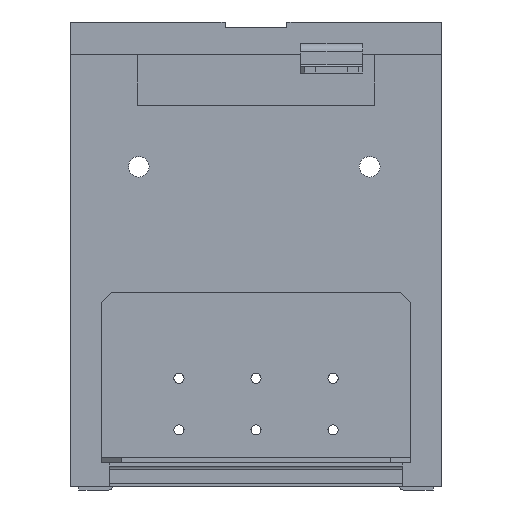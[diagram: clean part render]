
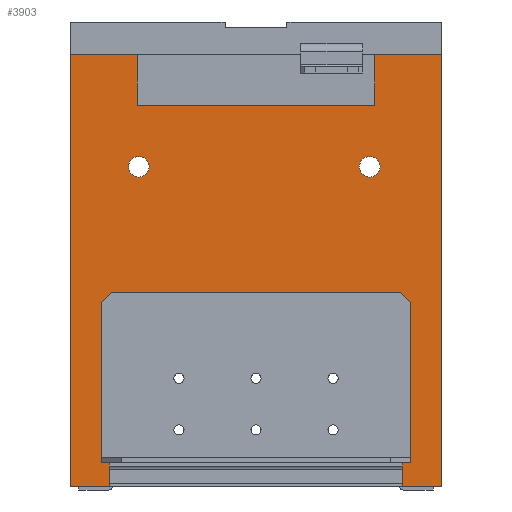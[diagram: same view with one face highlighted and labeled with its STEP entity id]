
A CAD part, left-side view. The second image highlights one B-rep face of the part: STEP entity #3903.
In plain terms, the highlighted planar face has unit normal (-1, 0, 0).
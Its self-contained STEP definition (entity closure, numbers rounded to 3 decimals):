
#1263=AXIS2_PLACEMENT_3D('Circle Axis2P3D',#1261,#1262,$) ;
#1289=AXIS2_PLACEMENT_3D('Circle Axis2P3D',#1287,#1288,$) ;
#1320=AXIS2_PLACEMENT_3D('Circle Axis2P3D',#1318,#1319,$) ;
#1346=AXIS2_PLACEMENT_3D('Circle Axis2P3D',#1344,#1345,$) ;
#3849=AXIS2_PLACEMENT_3D('Plane Axis2P3D',#3846,#3847,#3848) ;
#341=CARTESIAN_POINT('Vertex',(-409.35,-90.,209.18)) ;
#344=CARTESIAN_POINT('Line Origine',(-409.35,-90.,104.59)) ;
#348=CARTESIAN_POINT('Vertex',(-409.35,-90.,0.)) ;
#650=CARTESIAN_POINT('Vertex',(-409.35,71.,0.)) ;
#653=CARTESIAN_POINT('Line Origine',(-409.35,80.5,0.)) ;
#657=CARTESIAN_POINT('Vertex',(-409.35,90.,0.)) ;
#763=CARTESIAN_POINT('Vertex',(-409.35,71.,1.5)) ;
#766=CARTESIAN_POINT('Line Origine',(-409.35,71.,0.75)) ;
#907=CARTESIAN_POINT('Line Origine',(-409.35,0.,1.5)) ;
#911=CARTESIAN_POINT('Vertex',(-409.35,-71.,1.5)) ;
#949=CARTESIAN_POINT('Vertex',(-409.35,-71.,0.)) ;
#952=CARTESIAN_POINT('Line Origine',(-409.35,-71.,0.75)) ;
#982=CARTESIAN_POINT('Vertex',(-409.35,57.4,209.18)) ;
#985=CARTESIAN_POINT('Line Origine',(-409.35,57.4,196.93)) ;
#989=CARTESIAN_POINT('Vertex',(-409.35,57.4,184.68)) ;
#1040=CARTESIAN_POINT('Line Origine',(-409.35,0.,184.68)) ;
#1044=CARTESIAN_POINT('Vertex',(-409.35,-57.4,184.68)) ;
#1258=CARTESIAN_POINT('Vertex',(-409.35,56.759,159.9)) ;
#1261=CARTESIAN_POINT('Axis2P3D Location',(-409.35,56.759,154.9)) ;
#1265=CARTESIAN_POINT('Vertex',(-409.35,56.759,149.9)) ;
#1287=CARTESIAN_POINT('Axis2P3D Location',(-409.35,56.759,154.9)) ;
#1315=CARTESIAN_POINT('Vertex',(-409.35,-55.059,159.9)) ;
#1318=CARTESIAN_POINT('Axis2P3D Location',(-409.35,-55.059,154.9)) ;
#1322=CARTESIAN_POINT('Vertex',(-409.35,-55.059,149.9)) ;
#1344=CARTESIAN_POINT('Axis2P3D Location',(-409.35,-55.059,154.9)) ;
#1722=CARTESIAN_POINT('Vertex',(-409.35,75.,11.6)) ;
#1725=CARTESIAN_POINT('Line Origine',(-409.35,0.,11.6)) ;
#1729=CARTESIAN_POINT('Vertex',(-409.35,-75.,11.6)) ;
#1898=CARTESIAN_POINT('Vertex',(-409.35,-75.,89.1)) ;
#1922=CARTESIAN_POINT('Line Origine',(-409.35,-75.,50.35)) ;
#3050=CARTESIAN_POINT('Vertex',(-409.35,-70.,94.1)) ;
#3053=CARTESIAN_POINT('Line Origine',(-409.35,0.,94.1)) ;
#3057=CARTESIAN_POINT('Vertex',(-409.35,70.,94.1)) ;
#3077=CARTESIAN_POINT('Line Origine',(-409.35,-72.5,91.6)) ;
#3089=CARTESIAN_POINT('Line Origine',(-409.35,75.,50.35)) ;
#3093=CARTESIAN_POINT('Vertex',(-409.35,75.,89.1)) ;
#3115=CARTESIAN_POINT('Line Origine',(-409.35,72.5,91.6)) ;
#3597=CARTESIAN_POINT('Line Origine',(-409.35,-57.4,196.93)) ;
#3601=CARTESIAN_POINT('Vertex',(-409.35,-57.4,209.18)) ;
#3846=CARTESIAN_POINT('Axis2P3D Location',(-409.35,0.,209.18)) ;
#3851=CARTESIAN_POINT('Line Origine',(-409.35,73.7,209.18)) ;
#3855=CARTESIAN_POINT('Vertex',(-409.35,90.,209.18)) ;
#3858=CARTESIAN_POINT('Line Origine',(-409.35,90.,104.59)) ;
#3863=CARTESIAN_POINT('Line Origine',(-409.35,-80.5,0.)) ;
#3868=CARTESIAN_POINT('Line Origine',(-409.35,-73.7,209.18)) ;
#345=DIRECTION('Vector Direction',(0.,0.,-1.)) ;
#654=DIRECTION('Vector Direction',(0.,1.,0.)) ;
#767=DIRECTION('Vector Direction',(0.,0.,1.)) ;
#908=DIRECTION('Vector Direction',(0.,1.,0.)) ;
#953=DIRECTION('Vector Direction',(0.,0.,1.)) ;
#986=DIRECTION('Vector Direction',(0.,0.,-1.)) ;
#1041=DIRECTION('Vector Direction',(0.,1.,0.)) ;
#1262=DIRECTION('Axis2P3D Direction',(-1.,0.,0.)) ;
#1288=DIRECTION('Axis2P3D Direction',(-1.,0.,0.)) ;
#1319=DIRECTION('Axis2P3D Direction',(-1.,0.,0.)) ;
#1345=DIRECTION('Axis2P3D Direction',(-1.,0.,0.)) ;
#1726=DIRECTION('Vector Direction',(0.,1.,0.)) ;
#1923=DIRECTION('Vector Direction',(0.,0.,-1.)) ;
#3054=DIRECTION('Vector Direction',(0.,1.,0.)) ;
#3078=DIRECTION('Vector Direction',(0.,-0.707,-0.707)) ;
#3090=DIRECTION('Vector Direction',(0.,0.,-1.)) ;
#3116=DIRECTION('Vector Direction',(0.,0.707,-0.707)) ;
#3598=DIRECTION('Vector Direction',(0.,0.,1.)) ;
#3847=DIRECTION('Axis2P3D Direction',(1.,-0.,0.)) ;
#3848=DIRECTION('Axis2P3D XDirection',(0.,0.,-1.)) ;
#3852=DIRECTION('Vector Direction',(0.,1.,0.)) ;
#3859=DIRECTION('Vector Direction',(0.,0.,-1.)) ;
#3864=DIRECTION('Vector Direction',(0.,1.,0.)) ;
#3869=DIRECTION('Vector Direction',(0.,1.,0.)) ;
#346=VECTOR('Line Direction',#345,1.) ;
#655=VECTOR('Line Direction',#654,1.) ;
#768=VECTOR('Line Direction',#767,1.) ;
#909=VECTOR('Line Direction',#908,1.) ;
#954=VECTOR('Line Direction',#953,1.) ;
#987=VECTOR('Line Direction',#986,1.) ;
#1042=VECTOR('Line Direction',#1041,1.) ;
#1727=VECTOR('Line Direction',#1726,1.) ;
#1924=VECTOR('Line Direction',#1923,1.) ;
#3055=VECTOR('Line Direction',#3054,1.) ;
#3079=VECTOR('Line Direction',#3078,1.) ;
#3091=VECTOR('Line Direction',#3090,1.) ;
#3117=VECTOR('Line Direction',#3116,1.) ;
#3599=VECTOR('Line Direction',#3598,1.) ;
#3853=VECTOR('Line Direction',#3852,1.) ;
#3860=VECTOR('Line Direction',#3859,1.) ;
#3865=VECTOR('Line Direction',#3864,1.) ;
#3870=VECTOR('Line Direction',#3869,1.) ;
#3874=ORIENTED_EDGE('',*,*,#3603,.T.) ;
#3875=ORIENTED_EDGE('',*,*,#1046,.T.) ;
#3876=ORIENTED_EDGE('',*,*,#991,.T.) ;
#3877=ORIENTED_EDGE('',*,*,#3857,.T.) ;
#3878=ORIENTED_EDGE('',*,*,#3862,.F.) ;
#3879=ORIENTED_EDGE('',*,*,#659,.F.) ;
#3880=ORIENTED_EDGE('',*,*,#770,.T.) ;
#3881=ORIENTED_EDGE('',*,*,#913,.F.) ;
#3882=ORIENTED_EDGE('',*,*,#956,.F.) ;
#3883=ORIENTED_EDGE('',*,*,#3867,.F.) ;
#3884=ORIENTED_EDGE('',*,*,#350,.T.) ;
#3885=ORIENTED_EDGE('',*,*,#3872,.T.) ;
#3888=ORIENTED_EDGE('',*,*,#3059,.F.) ;
#3889=ORIENTED_EDGE('',*,*,#3081,.F.) ;
#3890=ORIENTED_EDGE('',*,*,#1926,.T.) ;
#3891=ORIENTED_EDGE('',*,*,#1731,.T.) ;
#3892=ORIENTED_EDGE('',*,*,#3095,.F.) ;
#3893=ORIENTED_EDGE('',*,*,#3119,.F.) ;
#3896=ORIENTED_EDGE('',*,*,#1291,.T.) ;
#3897=ORIENTED_EDGE('',*,*,#1267,.T.) ;
#3900=ORIENTED_EDGE('',*,*,#1348,.T.) ;
#3901=ORIENTED_EDGE('',*,*,#1324,.T.) ;
#3894=FACE_BOUND('',#3887,.T.) ;
#3898=FACE_BOUND('',#3895,.T.) ;
#3902=FACE_BOUND('',#3899,.T.) ;
#3903=ADVANCED_FACE('\X2\6A217EC4\X0\',(#3886,#3894,#3898,#3902),#3850,.F.) ;
#1264=CIRCLE('generated circle',#1263,5.) ;
#1290=CIRCLE('generated circle',#1289,5.) ;
#1321=CIRCLE('generated circle',#1320,5.) ;
#1347=CIRCLE('generated circle',#1346,5.) ;
#350=EDGE_CURVE('',#349,#342,#347,.F.) ;
#659=EDGE_CURVE('',#651,#658,#656,.T.) ;
#770=EDGE_CURVE('',#651,#764,#769,.T.) ;
#913=EDGE_CURVE('',#912,#764,#910,.T.) ;
#956=EDGE_CURVE('',#950,#912,#955,.T.) ;
#991=EDGE_CURVE('',#990,#983,#988,.F.) ;
#1046=EDGE_CURVE('',#1045,#990,#1043,.T.) ;
#1267=EDGE_CURVE('',#1266,#1259,#1264,.F.) ;
#1291=EDGE_CURVE('',#1259,#1266,#1290,.F.) ;
#1324=EDGE_CURVE('',#1323,#1316,#1321,.F.) ;
#1348=EDGE_CURVE('',#1316,#1323,#1347,.F.) ;
#1731=EDGE_CURVE('',#1730,#1723,#1728,.T.) ;
#1926=EDGE_CURVE('',#1899,#1730,#1925,.T.) ;
#3059=EDGE_CURVE('',#3051,#3058,#3056,.T.) ;
#3081=EDGE_CURVE('',#1899,#3051,#3080,.F.) ;
#3095=EDGE_CURVE('',#3094,#1723,#3092,.T.) ;
#3119=EDGE_CURVE('',#3058,#3094,#3118,.T.) ;
#3603=EDGE_CURVE('',#3602,#1045,#3600,.F.) ;
#3857=EDGE_CURVE('',#983,#3856,#3854,.T.) ;
#3862=EDGE_CURVE('',#658,#3856,#3861,.F.) ;
#3867=EDGE_CURVE('',#349,#950,#3866,.T.) ;
#3872=EDGE_CURVE('',#342,#3602,#3871,.T.) ;
#3873=EDGE_LOOP('',(#3874,#3875,#3876,#3877,#3878,#3879,#3880,#3881,#3882,#3883,#3884,#3885)) ;
#3887=EDGE_LOOP('',(#3888,#3889,#3890,#3891,#3892,#3893)) ;
#3895=EDGE_LOOP('',(#3896,#3897)) ;
#3899=EDGE_LOOP('',(#3900,#3901)) ;
#3886=FACE_OUTER_BOUND('',#3873,.T.) ;
#347=LINE('Line',#344,#346) ;
#656=LINE('Line',#653,#655) ;
#769=LINE('Line',#766,#768) ;
#910=LINE('Line',#907,#909) ;
#955=LINE('Line',#952,#954) ;
#988=LINE('Line',#985,#987) ;
#1043=LINE('Line',#1040,#1042) ;
#1728=LINE('Line',#1725,#1727) ;
#1925=LINE('Line',#1922,#1924) ;
#3056=LINE('Line',#3053,#3055) ;
#3080=LINE('Line',#3077,#3079) ;
#3092=LINE('Line',#3089,#3091) ;
#3118=LINE('Line',#3115,#3117) ;
#3600=LINE('Line',#3597,#3599) ;
#3854=LINE('Line',#3851,#3853) ;
#3861=LINE('Line',#3858,#3860) ;
#3866=LINE('Line',#3863,#3865) ;
#3871=LINE('Line',#3868,#3870) ;
#3850=PLANE('',#3849) ;
#342=VERTEX_POINT('',#341) ;
#349=VERTEX_POINT('',#348) ;
#651=VERTEX_POINT('',#650) ;
#658=VERTEX_POINT('',#657) ;
#764=VERTEX_POINT('',#763) ;
#912=VERTEX_POINT('',#911) ;
#950=VERTEX_POINT('',#949) ;
#983=VERTEX_POINT('',#982) ;
#990=VERTEX_POINT('',#989) ;
#1045=VERTEX_POINT('',#1044) ;
#1259=VERTEX_POINT('',#1258) ;
#1266=VERTEX_POINT('',#1265) ;
#1316=VERTEX_POINT('',#1315) ;
#1323=VERTEX_POINT('',#1322) ;
#1723=VERTEX_POINT('',#1722) ;
#1730=VERTEX_POINT('',#1729) ;
#1899=VERTEX_POINT('',#1898) ;
#3051=VERTEX_POINT('',#3050) ;
#3058=VERTEX_POINT('',#3057) ;
#3094=VERTEX_POINT('',#3093) ;
#3602=VERTEX_POINT('',#3601) ;
#3856=VERTEX_POINT('',#3855) ;
